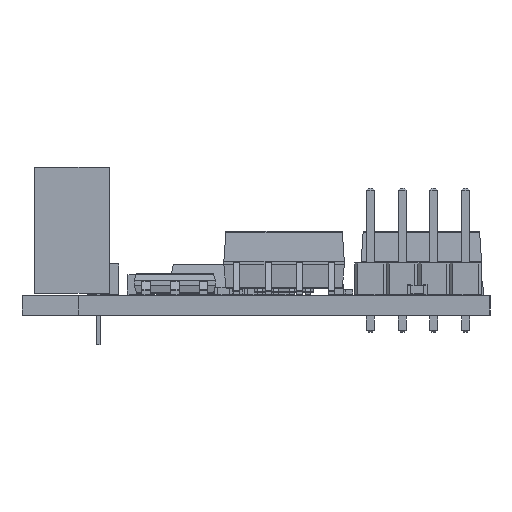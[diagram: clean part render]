
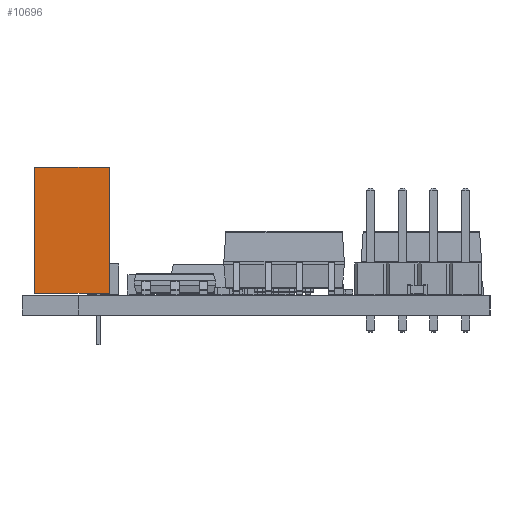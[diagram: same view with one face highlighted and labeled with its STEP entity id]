
A CAD part, left-side view. The second image highlights one B-rep face of the part: STEP entity #10696.
In plain terms, the highlighted planar face has unit normal (-1, 0, 0).
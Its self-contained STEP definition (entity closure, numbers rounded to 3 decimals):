
#10468 = EDGE_CURVE('',#10469,#10471,#10473,.T.);
#10469 = VERTEX_POINT('',#10470);
#10470 = CARTESIAN_POINT('',(0.,14.2,-6.));
#10471 = VERTEX_POINT('',#10472);
#10472 = CARTESIAN_POINT('',(0.,4.1,-6.));
#10473 = SURFACE_CURVE('',#10474,(#10478,#10490),.PCURVE_S1.);
#10474 = LINE('',#10475,#10476);
#10475 = CARTESIAN_POINT('',(0.,14.2,-6.));
#10476 = VECTOR('',#10477,1.);
#10477 = DIRECTION('',(0.,-1.,0.));
#10478 = PCURVE('',#10479,#10484);
#10479 = PLANE('',#10480);
#10480 = AXIS2_PLACEMENT_3D('',#10481,#10482,#10483);
#10481 = CARTESIAN_POINT('',(5.8,14.2,-6.));
#10482 = DIRECTION('',(0.,0.,1.));
#10483 = DIRECTION('',(1.,0.,0.));
#10484 = DEFINITIONAL_REPRESENTATION('',(#10485),#10489);
#10485 = LINE('',#10486,#10487);
#10486 = CARTESIAN_POINT('',(-5.8,0.));
#10487 = VECTOR('',#10488,1.);
#10488 = DIRECTION('',(0.,-1.));
#10489 = ( GEOMETRIC_REPRESENTATION_CONTEXT(2) 
PARAMETRIC_REPRESENTATION_CONTEXT() REPRESENTATION_CONTEXT('2D SPACE',''
  ) );
#10490 = PCURVE('',#10491,#10496);
#10491 = PLANE('',#10492);
#10492 = AXIS2_PLACEMENT_3D('',#10493,#10494,#10495);
#10493 = CARTESIAN_POINT('',(0.,14.2,-6.));
#10494 = DIRECTION('',(-1.,0.,0.));
#10495 = DIRECTION('',(0.,-1.,0.));
#10496 = DEFINITIONAL_REPRESENTATION('',(#10497),#10501);
#10497 = LINE('',#10498,#10499);
#10498 = CARTESIAN_POINT('',(0.,0.));
#10499 = VECTOR('',#10500,1.);
#10500 = DIRECTION('',(1.,0.));
#10501 = ( GEOMETRIC_REPRESENTATION_CONTEXT(2) 
PARAMETRIC_REPRESENTATION_CONTEXT() REPRESENTATION_CONTEXT('2D SPACE',''
  ) );
#10519 = PLANE('',#10520);
#10520 = AXIS2_PLACEMENT_3D('',#10521,#10522,#10523);
#10521 = CARTESIAN_POINT('',(0.,4.1,-6.));
#10522 = DIRECTION('',(0.,-1.,0.));
#10523 = DIRECTION('',(1.,0.,0.));
#10685 = PLANE('',#10686);
#10686 = AXIS2_PLACEMENT_3D('',#10687,#10688,#10689);
#10687 = CARTESIAN_POINT('',(11.6,14.2,-6.));
#10688 = DIRECTION('',(0.,1.,0.));
#10689 = DIRECTION('',(-1.,0.,0.));
#10696 = ADVANCED_FACE('',(#10697),#10491,.T.);
#10697 = FACE_BOUND('',#10698,.T.);
#10698 = EDGE_LOOP('',(#10699,#10722,#10750,#10771));
#10699 = ORIENTED_EDGE('',*,*,#10700,.T.);
#10700 = EDGE_CURVE('',#10471,#10701,#10703,.T.);
#10701 = VERTEX_POINT('',#10702);
#10702 = CARTESIAN_POINT('',(0.,4.1,0.));
#10703 = SURFACE_CURVE('',#10704,(#10708,#10715),.PCURVE_S1.);
#10704 = LINE('',#10705,#10706);
#10705 = CARTESIAN_POINT('',(0.,4.1,-6.));
#10706 = VECTOR('',#10707,1.);
#10707 = DIRECTION('',(0.,0.,1.));
#10708 = PCURVE('',#10491,#10709);
#10709 = DEFINITIONAL_REPRESENTATION('',(#10710),#10714);
#10710 = LINE('',#10711,#10712);
#10711 = CARTESIAN_POINT('',(10.1,0.));
#10712 = VECTOR('',#10713,1.);
#10713 = DIRECTION('',(0.,1.));
#10714 = ( GEOMETRIC_REPRESENTATION_CONTEXT(2) 
PARAMETRIC_REPRESENTATION_CONTEXT() REPRESENTATION_CONTEXT('2D SPACE',''
  ) );
#10715 = PCURVE('',#10519,#10716);
#10716 = DEFINITIONAL_REPRESENTATION('',(#10717),#10721);
#10717 = LINE('',#10718,#10719);
#10718 = CARTESIAN_POINT('',(0.,0.));
#10719 = VECTOR('',#10720,1.);
#10720 = DIRECTION('',(0.,1.));
#10721 = ( GEOMETRIC_REPRESENTATION_CONTEXT(2) 
PARAMETRIC_REPRESENTATION_CONTEXT() REPRESENTATION_CONTEXT('2D SPACE',''
  ) );
#10722 = ORIENTED_EDGE('',*,*,#10723,.F.);
#10723 = EDGE_CURVE('',#10724,#10701,#10726,.T.);
#10724 = VERTEX_POINT('',#10725);
#10725 = CARTESIAN_POINT('',(0.,14.2,0.));
#10726 = SURFACE_CURVE('',#10727,(#10731,#10738),.PCURVE_S1.);
#10727 = LINE('',#10728,#10729);
#10728 = CARTESIAN_POINT('',(0.,14.2,0.));
#10729 = VECTOR('',#10730,1.);
#10730 = DIRECTION('',(0.,-1.,0.));
#10731 = PCURVE('',#10491,#10732);
#10732 = DEFINITIONAL_REPRESENTATION('',(#10733),#10737);
#10733 = LINE('',#10734,#10735);
#10734 = CARTESIAN_POINT('',(0.,6.));
#10735 = VECTOR('',#10736,1.);
#10736 = DIRECTION('',(1.,0.));
#10737 = ( GEOMETRIC_REPRESENTATION_CONTEXT(2) 
PARAMETRIC_REPRESENTATION_CONTEXT() REPRESENTATION_CONTEXT('2D SPACE',''
  ) );
#10738 = PCURVE('',#10739,#10744);
#10739 = PLANE('',#10740);
#10740 = AXIS2_PLACEMENT_3D('',#10741,#10742,#10743);
#10741 = CARTESIAN_POINT('',(5.8,14.2,0.));
#10742 = DIRECTION('',(0.,0.,1.));
#10743 = DIRECTION('',(1.,0.,0.));
#10744 = DEFINITIONAL_REPRESENTATION('',(#10745),#10749);
#10745 = LINE('',#10746,#10747);
#10746 = CARTESIAN_POINT('',(-5.8,0.));
#10747 = VECTOR('',#10748,1.);
#10748 = DIRECTION('',(0.,-1.));
#10749 = ( GEOMETRIC_REPRESENTATION_CONTEXT(2) 
PARAMETRIC_REPRESENTATION_CONTEXT() REPRESENTATION_CONTEXT('2D SPACE',''
  ) );
#10750 = ORIENTED_EDGE('',*,*,#10751,.F.);
#10751 = EDGE_CURVE('',#10469,#10724,#10752,.T.);
#10752 = SURFACE_CURVE('',#10753,(#10757,#10764),.PCURVE_S1.);
#10753 = LINE('',#10754,#10755);
#10754 = CARTESIAN_POINT('',(0.,14.2,-6.));
#10755 = VECTOR('',#10756,1.);
#10756 = DIRECTION('',(0.,0.,1.));
#10757 = PCURVE('',#10491,#10758);
#10758 = DEFINITIONAL_REPRESENTATION('',(#10759),#10763);
#10759 = LINE('',#10760,#10761);
#10760 = CARTESIAN_POINT('',(0.,0.));
#10761 = VECTOR('',#10762,1.);
#10762 = DIRECTION('',(0.,1.));
#10763 = ( GEOMETRIC_REPRESENTATION_CONTEXT(2) 
PARAMETRIC_REPRESENTATION_CONTEXT() REPRESENTATION_CONTEXT('2D SPACE',''
  ) );
#10764 = PCURVE('',#10685,#10765);
#10765 = DEFINITIONAL_REPRESENTATION('',(#10766),#10770);
#10766 = LINE('',#10767,#10768);
#10767 = CARTESIAN_POINT('',(11.6,0.));
#10768 = VECTOR('',#10769,1.);
#10769 = DIRECTION('',(0.,1.));
#10770 = ( GEOMETRIC_REPRESENTATION_CONTEXT(2) 
PARAMETRIC_REPRESENTATION_CONTEXT() REPRESENTATION_CONTEXT('2D SPACE',''
  ) );
#10771 = ORIENTED_EDGE('',*,*,#10468,.T.);
